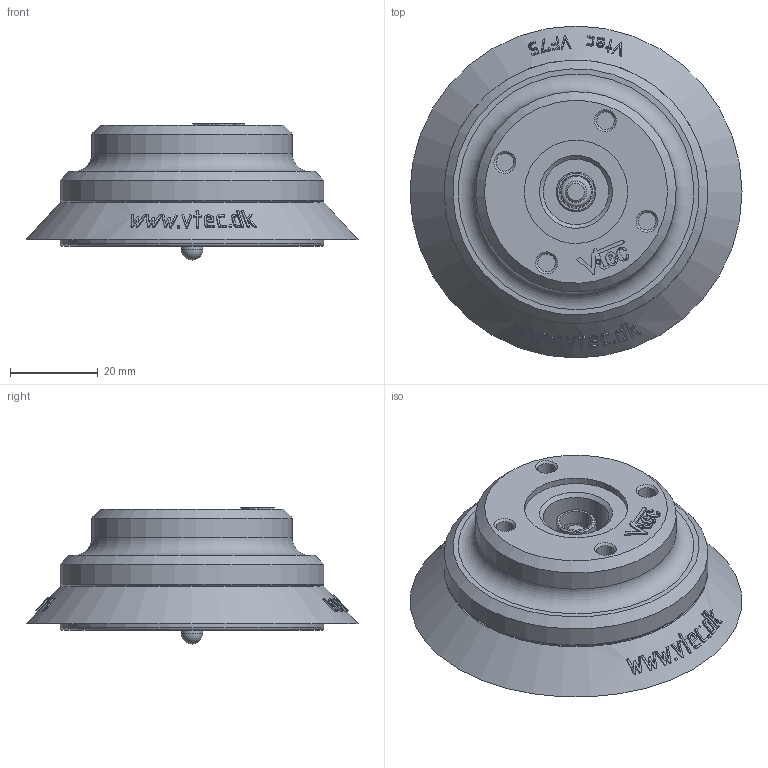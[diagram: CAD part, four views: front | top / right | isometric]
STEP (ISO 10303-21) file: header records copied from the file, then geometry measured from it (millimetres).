
FILE_DESCRIPTION( ( 'Unknown' ), '1' );
FILE_NAME( 'C:/Documents and Settings/owner/官帕 拳搁/MISUMI/PAD/VF/VF75-N-38FA-BV.stp', 'Unknown', ( 'Unknown' ), ( 'Unknown' ), 'XStep 1.0', 'Unknown', ' ' );
FILE_SCHEMA( ( 'automotive_design' ) );
Length unit declared in the file: millimetre
Products named in the file (5): Assem1; 1_2; 2_2; VF75 BV
Bounding box: 75.5 x 75.5 x 30.95 mm (x, y, z)
Volume: 99964.3 mm3; surface area: 47412.9 mm2
Topology: 8 solids, 8 shells, 748 faces, 1888 edges, 1252 vertices
Faces by surface type: plane 364, cylinder 160, bspline 122, cone 72, extrusion 18, torus 10, sphere 2
Full cylindrical faces by diameter (mm): 0.791 x2, 4 x16, 4.9 x2, 5 x2, 6 x8, 7.5 x2, 9 x2, 10.5 x2, 11 x2, 14.9 x2, 15 x4, 23.5 x2, 25 x2, 45.6 x2, 55 x4, 60 x2
Entity records: 16081 total; most frequent: CARTESIAN_POINT 7435, ORIENTED_EDGE 1760, DIRECTION 1530, EDGE_CURVE 880, AXIS2_PLACEMENT_3D 621, VERTEX_POINT 610, EDGE_LOOP 482, FACE_OUTER_BOUND 407
